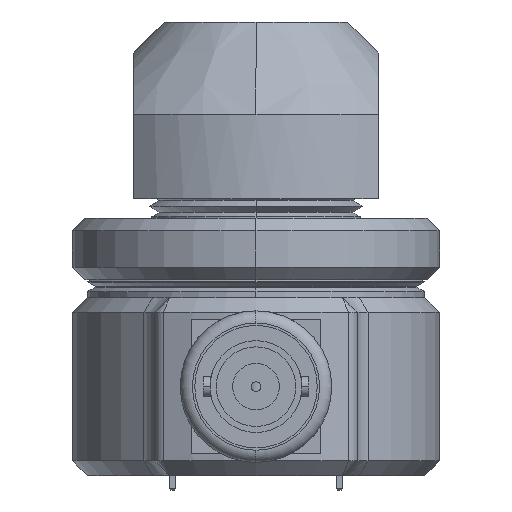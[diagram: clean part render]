
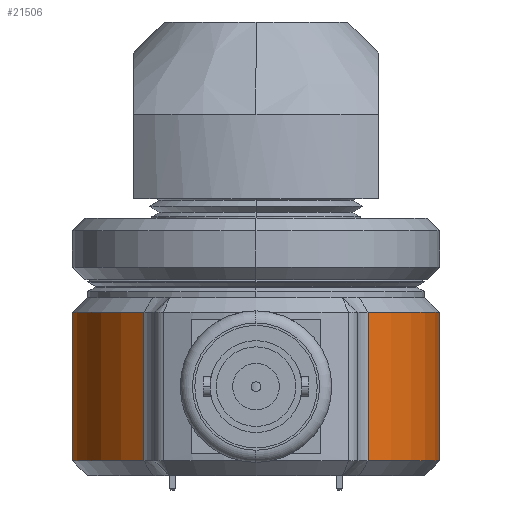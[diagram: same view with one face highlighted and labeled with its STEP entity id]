
A CAD part, left-side view. The second image highlights one B-rep face of the part: STEP entity #21506.
In plain terms, the highlighted cylindrical face has radius 19.05 mm (diameter 38.1 mm), a partial arc.
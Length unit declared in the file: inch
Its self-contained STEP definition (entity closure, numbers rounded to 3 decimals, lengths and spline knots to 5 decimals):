
#20048=DIRECTION('',(0.,0.,1.));
#20049=VECTOR('',#20048,0.606);
#20050=CARTESIAN_POINT('',(-0.59384,0.4581,-0.409));
#20051=LINE('',#20050,#20049);
#20071=CARTESIAN_POINT('',(0.,0.,-0.409));
#20072=DIRECTION('',(0.,0.,1.));
#20073=DIRECTION('',(-0.792,-0.611,0.));
#20074=AXIS2_PLACEMENT_3D('',#20071,#20072,#20073);
#20094=DIRECTION('',(0.,0.,-1.));
#20095=VECTOR('',#20094,0.606);
#20096=CARTESIAN_POINT('',(-0.59384,-0.4581,0.197));
#20097=LINE('',#20096,#20095);
#20153=CARTESIAN_POINT('',(0.,0.,0.197));
#20154=DIRECTION('',(0.,0.,1.));
#20155=DIRECTION('',(-0.792,-0.611,0.));
#20156=AXIS2_PLACEMENT_3D('',#20153,#20154,#20155);
#20387=CARTESIAN_POINT('',(-0.59384,-0.4581,0.197));
#20388=CARTESIAN_POINT('',(-0.59384,0.4581,0.197));
#20389=VERTEX_POINT('',#20387);
#20390=VERTEX_POINT('',#20388);
#20411=CARTESIAN_POINT('',(-0.59384,-0.4581,-0.409));
#20412=CARTESIAN_POINT('',(-0.59384,0.4581,-0.409));
#20413=VERTEX_POINT('',#20411);
#20414=VERTEX_POINT('',#20412);
#21495=CARTESIAN_POINT('',(0.,0.,-0.743));
#21496=DIRECTION('',(0.,0.,1.));
#21497=DIRECTION('',(0.871,0.491,0.));
#21498=AXIS2_PLACEMENT_3D('',#21495,#21496,#21497);
#21499=CYLINDRICAL_SURFACE('',#21498,0.75);
#21500=ORIENTED_EDGE('',*,*,#21367,.F.);
#21501=ORIENTED_EDGE('',*,*,#21394,.F.);
#21502=ORIENTED_EDGE('',*,*,#21423,.F.);
#21503=ORIENTED_EDGE('',*,*,#21489,.T.);
#21504=EDGE_LOOP('',(#21500,#21501,#21502,#21503));
#21505=FACE_OUTER_BOUND('',#21504,.F.);
#21506=ADVANCED_FACE('',(#21505),#21499,.T.);
#20075=CIRCLE('',#20074,0.75);
#20157=CIRCLE('',#20156,0.75);
#21367=EDGE_CURVE('',#20414,#20390,#20051,.T.);
#21394=EDGE_CURVE('',#20413,#20414,#20075,.T.);
#21423=EDGE_CURVE('',#20389,#20413,#20097,.T.);
#21489=EDGE_CURVE('',#20389,#20390,#20157,.T.);
